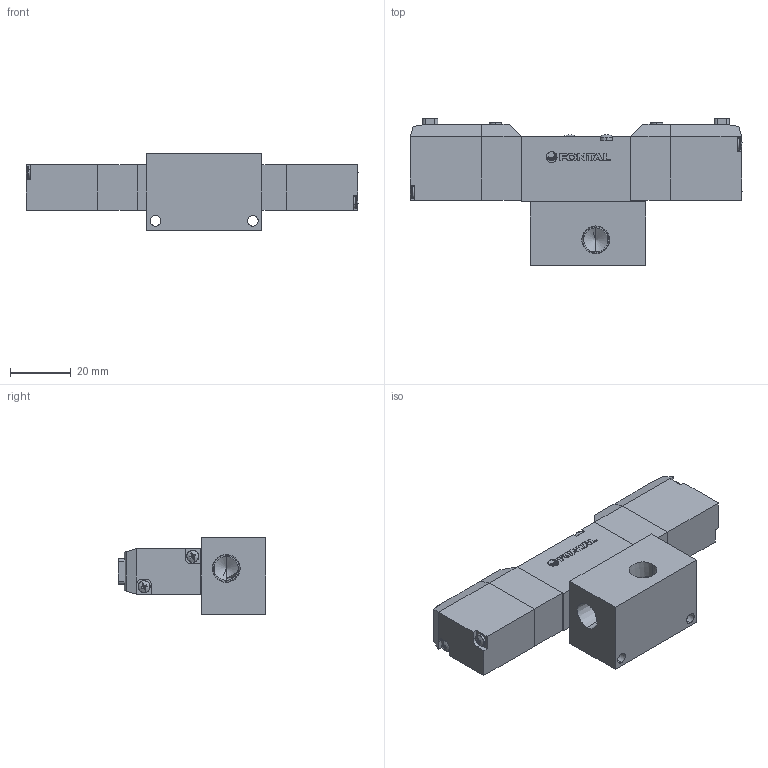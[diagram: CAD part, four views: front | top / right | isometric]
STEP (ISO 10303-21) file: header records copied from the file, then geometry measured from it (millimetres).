
FILE_DESCRIPTION (( 'STEP AP203' ), '1' );
FILE_NAME ('PCD345#-01-#-U-#.STEP', '2016-02-04T03:44:47', ( 'Sam Lin' ), ( '' ), 'SwSTEP 2.0', 'SolidWorks 2013', '' );
FILE_SCHEMA (( 'CONFIG_CONTROL_DESIGN' ));
Length unit declared in the file: metre
Products named in the file (9): PC5-9-345-U; PCD345#-01-#-U-#; PC5-5; PC-MARK; PC5-6; PC5-4; ISO 7045 - M2 x 10; ISO 7045 - M2.5 x 25; PC5-01-1
Assembly tree (15 placements, depth 2):
  PCD345#-01-#-U-#
    PC5-5  x2
    PC-MARK
    PC5-6  x2
    PC5-4  x2
    ISO 7045 - M2 x 10  x4
    ISO 7045 - M2.5 x 25  x2
    PC5-01-1
    PC5-9-345-U
Bounding box: 109.14 x 48.5 x 25 mm (x, y, z)
Volume: 53771.3 mm3; surface area: 20610.8 mm2
Topology: 21 solids, 21 shells, 531 faces, 1303 edges, 811 vertices
Faces by surface type: plane 294, cylinder 109, cone 84, bspline 44
Entity records: 10491 total; most frequent: CARTESIAN_POINT 2212, ORIENTED_EDGE 1482, DIRECTION 1472, EDGE_CURVE 741, AXIS2_PLACEMENT_3D 522, VERTEX_POINT 478, VECTOR 428, LINE 428
